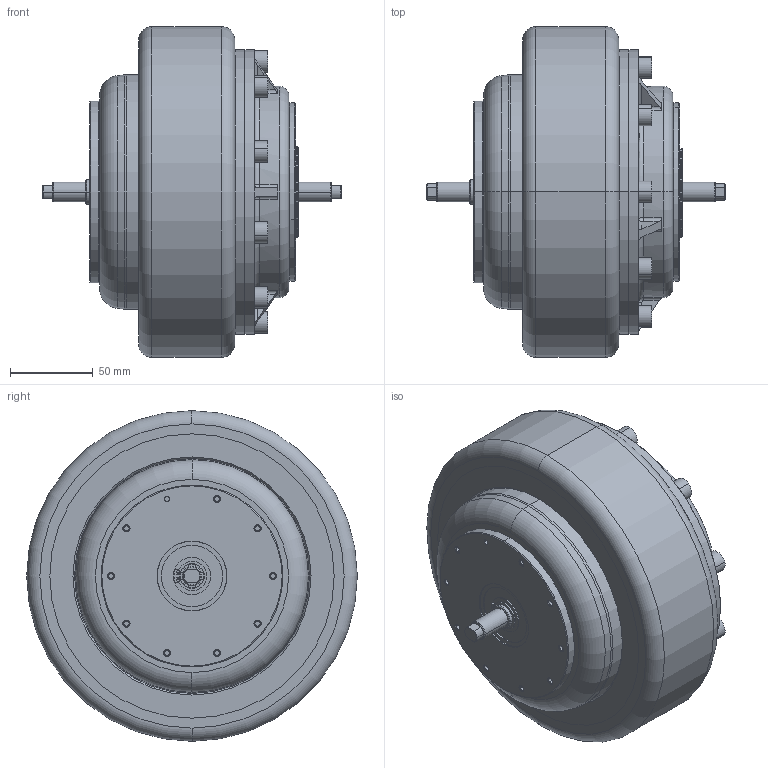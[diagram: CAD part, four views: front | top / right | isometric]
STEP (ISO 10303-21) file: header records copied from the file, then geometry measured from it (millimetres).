
FILE_DESCRIPTION (( 'STEP AP203' ), '1' );
FILE_NAME ('4th_Web外観図用_鉄リング.STEP', '2022-01-19T00:06:10', ( '' ), ( '' ), 'SwSTEP 2.0', 'SolidWorks 2018', '' );
FILE_SCHEMA (( 'CONFIG_CONTROL_DESIGN' ));
Length unit declared in the file: millimetre
Products named in the file (1): 4th_Web外観図用_鉄リング
Bounding box: 180.5 x 200 x 200 mm (x, y, z)
Surface area: 240251.9 mm2 (no closed solid volume)
Topology: 0 solids, 50 shells, 479 faces, 1378 edges, 957 vertices
Faces by surface type: plane 170, cylinder 162, cone 121, torus 16, bspline 10
Entity records: 16692 total; most frequent: CARTESIAN_POINT 3646, DIRECTION 2971, ORIENTED_EDGE 2320, EDGE_CURVE 1378, AXIS2_PLACEMENT_3D 1180, VERTEX_POINT 957, CIRCLE 710, VECTOR 611
